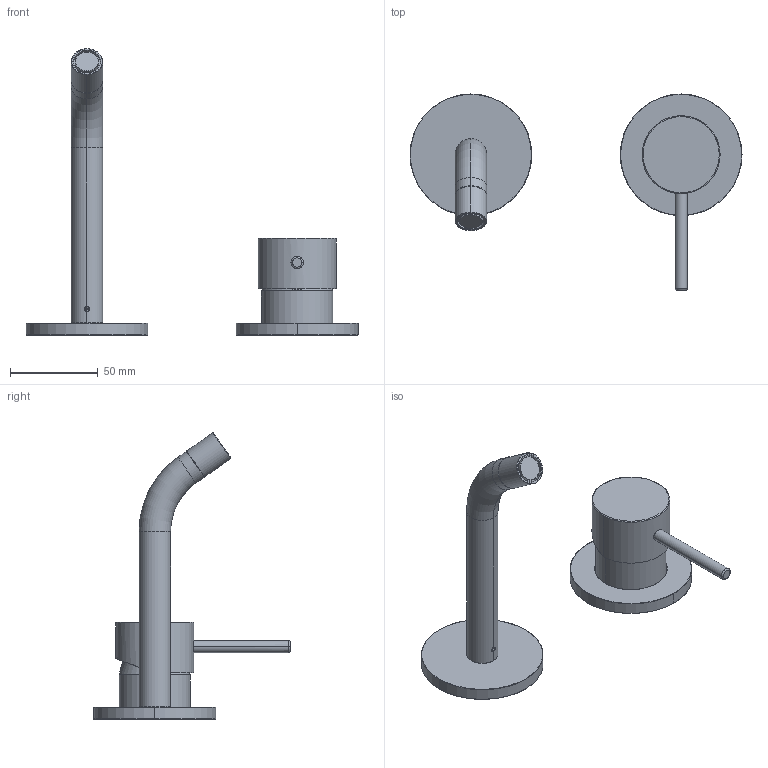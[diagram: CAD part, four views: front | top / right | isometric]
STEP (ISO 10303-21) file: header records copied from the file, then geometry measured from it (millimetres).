
FILE_DESCRIPTION((''),'2;1');
FILE_NAME('F3051X8_FILE_3D','2016-03-08T',('ivanv'),(''),'CREO PARAMETRIC BY PTC INC, 2015290','CREO PARAMETRIC BY PTC INC, 2015290','');
FILE_SCHEMA(('CONFIG_CONTROL_DESIGN'));
Length unit declared in the file: millimetre
Products named in the file (1): F3051X8_FILE_3D
Bounding box: 189.5 x 112 x 163.57 mm (x, y, z)
Volume: 66585 mm3; surface area: 58996.1 mm2
Topology: 4 solids, 5 shells, 731 faces, 1795 edges, 1097 vertices
Faces by surface type: plane 368, cylinder 132, torus 98, bspline 97, cone 34, sphere 2
Entity records: 28316 total; most frequent: CARTESIAN_POINT 11666, ORIENTED_EDGE 3562, DIRECTION 3255, EDGE_CURVE 1781, VECTOR 1105, LINE 1105, VERTEX_POINT 1097, AXIS2_PLACEMENT_3D 1075
